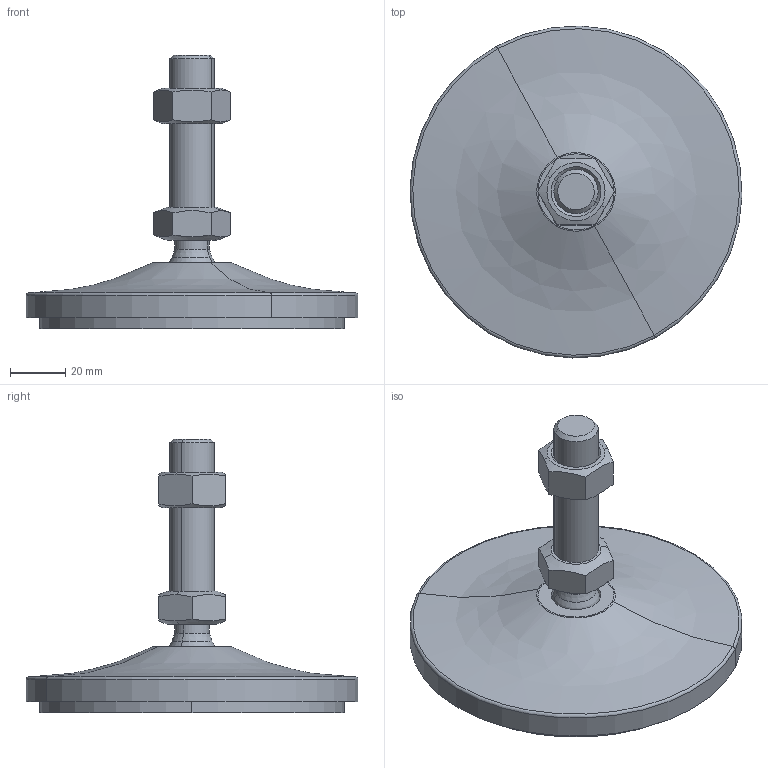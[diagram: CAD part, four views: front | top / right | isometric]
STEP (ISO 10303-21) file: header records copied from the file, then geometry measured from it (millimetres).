
FILE_DESCRIPTION(('CATIA V5 STEP Exchange'),'2;1');
FILE_NAME('C:\Users\ALI OZGUN\Desktop\alhan\saplama2\560122010AV.stp','2017-09-21T10:31:56+00:00',('none'),('none'),'CATIA Version 5 Release 21 GA (IN-10)','CATIA V5 STEP AP203','none');
FILE_SCHEMA(('CONFIG_CONTROL_DESIGN'));
Length unit declared in the file: millimetre
Products named in the file (1): 560122010AV
Bounding box: 119.97 x 119.97 x 99 mm (x, y, z)
Volume: 193596.2 mm3; surface area: 57875.5 mm2
Topology: 4 solids, 4 shells, 64 faces, 142 edges, 87 vertices
Faces by surface type: plane 22, cylinder 16, cone 16, torus 4, revolution 4, sphere 2
Entity records: 1954 total; most frequent: CARTESIAN_POINT 646, ORIENTED_EDGE 280, DIRECTION 197, EDGE_CURVE 140, AXIS2_PLACEMENT_3D 106, VERTEX_POINT 87, EDGE_LOOP 71, ADVANCED_FACE 64
